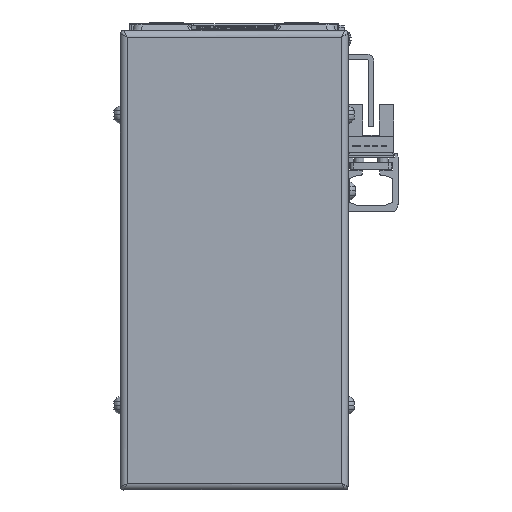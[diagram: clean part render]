
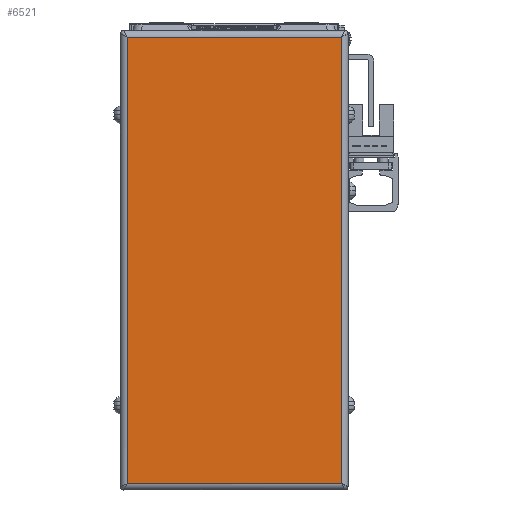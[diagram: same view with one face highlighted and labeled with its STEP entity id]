
A CAD part, left-side view. The second image highlights one B-rep face of the part: STEP entity #6521.
In plain terms, the highlighted planar face has unit normal (-1, 0, 0) as drawn and (0, 0, 1) by its records, which use the part's own axes.
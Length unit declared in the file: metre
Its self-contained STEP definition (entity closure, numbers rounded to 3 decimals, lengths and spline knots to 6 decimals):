
#6521=ADVANCED_FACE('',(#13013),#13014,.T.);
#13013=FACE_OUTER_BOUND('',#23495,.T.);
#13014=PLANE('',#23496);
#23495=EDGE_LOOP('',(#38868,#38869,#38870,#38871));
#23496=AXIS2_PLACEMENT_3D('',#38872,#38873,#38874);
#38868=ORIENTED_EDGE('',*,*,#47925,.F.);
#38869=ORIENTED_EDGE('',*,*,#43047,.F.);
#38870=ORIENTED_EDGE('',*,*,#47002,.F.);
#38871=ORIENTED_EDGE('',*,*,#47393,.F.);
#38872=CARTESIAN_POINT('',(-0.054,-0.014256,0.033889));
#38873=DIRECTION('',(0.0,0.0,1.0));
#38874=DIRECTION('',(1.0,0.0,0.0));
#43047=EDGE_CURVE('',#50681,#50679,#50683,.T.);
#47002=EDGE_CURVE('',#48862,#50681,#56548,.T.);
#47393=EDGE_CURVE('',#56880,#48862,#57026,.T.);
#47925=EDGE_CURVE('',#50679,#56880,#57697,.T.);
#48862=VERTEX_POINT('',#58998);
#50679=VERTEX_POINT('',#61655);
#50681=VERTEX_POINT('',#61666);
#50683=LINE('',#61677,#61678);
#56548=LINE('',#70270,#70271);
#56880=VERTEX_POINT('',#70745);
#57026=LINE('',#71092,#71093);
#57697=LINE('',#71996,#71997);
#58998=CARTESIAN_POINT('',(-0.12,-0.045956,0.033889));
#61655=CARTESIAN_POINT('',(0.012,0.017444,0.033889));
#61666=CARTESIAN_POINT('',(-0.12,0.017444,0.033889));
#61677=CARTESIAN_POINT('',(-0.054,0.017444,0.033889));
#61678=VECTOR('',#74293,1.0);
#70270=CARTESIAN_POINT('',(-0.12,-0.014256,0.033889));
#70271=VECTOR('',#78829,1.0);
#70745=CARTESIAN_POINT('',(0.012,-0.045956,0.033889));
#71092=CARTESIAN_POINT('',(-0.054,-0.045956,0.033889));
#71093=VECTOR('',#79153,1.0);
#71996=CARTESIAN_POINT('',(0.012,-0.014256,0.033889));
#71997=VECTOR('',#79635,1.0);
#74293=DIRECTION('',(1.0,0.0,0.0));
#78829=DIRECTION('',(0.0,1.0,0.0));
#79153=DIRECTION('',(-1.0,0.0,0.0));
#79635=DIRECTION('',(0.0,-1.0,0.0));
